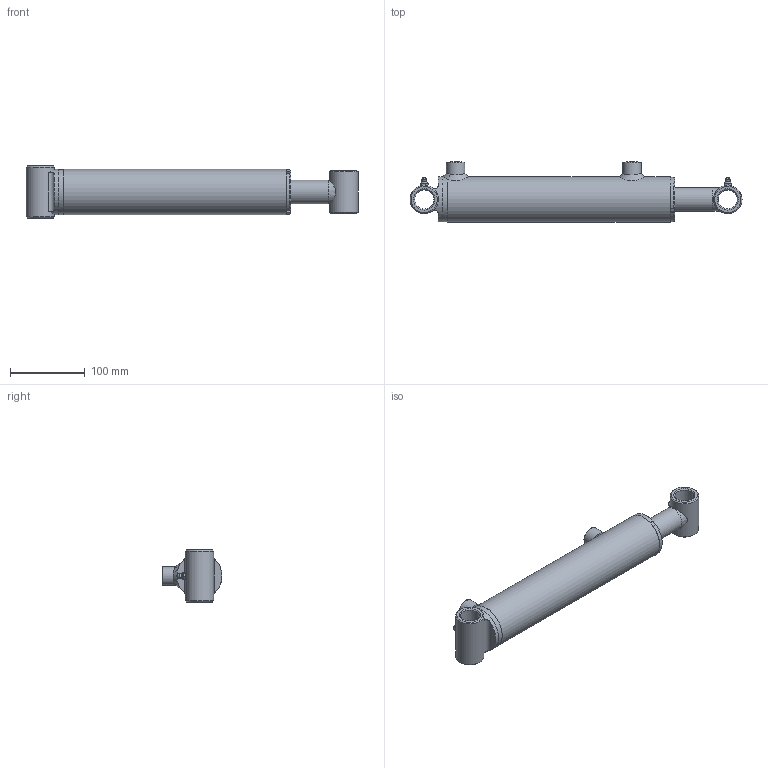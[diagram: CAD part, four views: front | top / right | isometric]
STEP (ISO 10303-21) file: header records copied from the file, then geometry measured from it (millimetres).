
FILE_DESCRIPTION(/* description */ (''),/* implementation_level */ '2;1');
FILE_NAME(/* name */ 'C:\01 - Philip\00 - Philip Rivard\01 - Contracts\Eagle Hydraulic Components\00 - 3D Cylinder\01 - Standard\HBU\HBU20XX\STEP\HBU2008.stp',/* time_stamp */ '2015-05-19T19:57:08-04:00',/* author */ ('Philip'),/* organization */ (''),/* preprocessor_version */ 'ST-DEVELOPER v16.1',/* originating_system */ 'Autodesk Inventor 2016',/* authorisation */ '');
FILE_SCHEMA (('AUTOMOTIVE_DESIGN { 1 0 10303 214 3 1 1 }'));
Length unit declared in the file: inch
Products named in the file (12): Tube_Welding_Welds; ECP-20-HBU; Tube; Straight_Port; Gland; Grease Fitting 1-8; Tube_Welding; Rod_Welding_Welds; Rod; Bushing; Rod_Welding; Cylinder_Assembly
Assembly tree (13 placements, depth 3):
  Cylinder_Assembly
    Tube_Welding
      Tube_Welding_Welds
      ECP-20-HBU
      Tube
      Straight_Port  x2
      Gland
      Grease Fitting 1-8
    Rod_Welding
      Rod_Welding_Welds
      Rod
      Bushing
      Grease Fitting 1-8
Bounding box: 444.5 x 80.33 x 69.8 mm (x, y, z)
Volume: 692445 mm3; surface area: 206853.3 mm2
Topology: 12 solids, 12 shells, 197 faces, 428 edges, 259 vertices
Faces by surface type: cone 65, plane 55, cylinder 50, torus 15, bspline 10, sphere 2
Full cylindrical faces by diameter (mm): 4 x2, 5 x1, 7.5 x2, 8 x2, 10 x2, 12.751 x2, 22 x1, 25 x4, 25.4 x2, 25.65 x2, 26 x1, 26.25 x1, 31.75 x2, 38.1 x2, 43 x1, 44.45 x1, 50.546 x1, 50.75 x1, 50.8 x1, 51 x1, 55 x4, 60.3 x1, 60.325 x1
Entity records: 6068 total; most frequent: CARTESIAN_POINT 2878, DIRECTION 631, ORIENTED_EDGE 486, AXIS2_PLACEMENT_3D 293, EDGE_LOOP 270, EDGE_CURVE 243, VERTEX_POINT 191, ADVANCED_FACE 157
